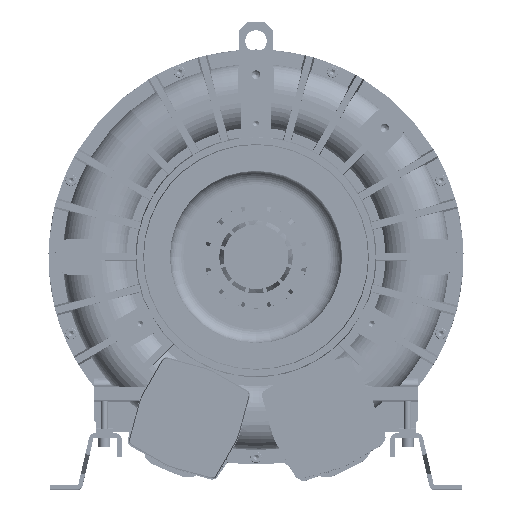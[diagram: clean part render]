
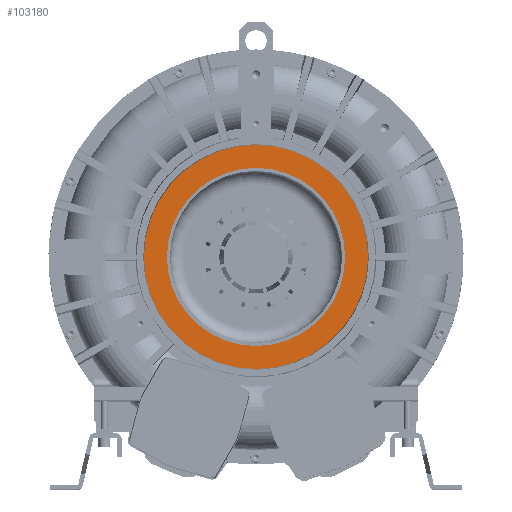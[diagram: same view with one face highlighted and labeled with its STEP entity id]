
A CAD part, top view. The second image highlights one B-rep face of the part: STEP entity #103180.
In plain terms, the highlighted planar face has unit normal (0, 0, 1).
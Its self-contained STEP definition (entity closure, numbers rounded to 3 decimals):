
#2317 = DIRECTION ( 'NONE',  ( -1., 0., 0. ) ) ;
#9303 = CARTESIAN_POINT ( 'NONE',  ( -130.194, 0., 212.5 ) ) ;
#11301 = AXIS2_PLACEMENT_3D ( 'NONE', #99756, #214632, #2317 ) ;
#11721 = CIRCLE ( 'NONE', #27667, 103.5 ) ;
#13000 = CARTESIAN_POINT ( 'NONE',  ( 103.5, 0., 212.5 ) ) ;
#16563 = DIRECTION ( 'NONE',  ( 1., 0., 0. ) ) ;
#27667 = AXIS2_PLACEMENT_3D ( 'NONE', #133976, #191444, #16563 ) ;
#36351 = VERTEX_POINT ( 'NONE', #13000 ) ;
#59135 = CIRCLE ( 'NONE', #11301, 130.194 ) ;
#75275 = DIRECTION ( 'NONE',  ( 0., 0., -1. ) ) ;
#90337 = CARTESIAN_POINT ( 'NONE',  ( 0., 0., 212.5 ) ) ;
#93823 = EDGE_CURVE ( 'NONE', #219159, #219159, #59135, .T. ) ;
#98387 = ORIENTED_EDGE ( 'NONE', *, *, #99315, .F. ) ;
#99315 = EDGE_CURVE ( 'NONE', #36351, #36351, #11721, .T. ) ;
#99756 = CARTESIAN_POINT ( 'NONE',  ( 0., 0., 212.5 ) ) ;
#102904 = ORIENTED_EDGE ( 'NONE', *, *, #93823, .T. ) ;
#103180 = ADVANCED_FACE ( 'NONE', ( #129027, #111532 ), #245220, .F. ) ;
#111532 = FACE_OUTER_BOUND ( 'NONE', #180658, .T. ) ;
#129027 = FACE_BOUND ( 'NONE', #135458, .T. ) ;
#132741 = DIRECTION ( 'NONE',  ( -1., 0., 0. ) ) ;
#133976 = CARTESIAN_POINT ( 'NONE',  ( 0., 0., 212.5 ) ) ;
#135458 = EDGE_LOOP ( 'NONE', ( #98387 ) ) ;
#180658 = EDGE_LOOP ( 'NONE', ( #102904 ) ) ;
#191444 = DIRECTION ( 'NONE',  ( 0., 0., 1. ) ) ;
#214632 = DIRECTION ( 'NONE',  ( 0., 0., 1. ) ) ;
#219159 = VERTEX_POINT ( 'NONE', #9303 ) ;
#219670 = AXIS2_PLACEMENT_3D ( 'NONE', #90337, #75275, #132741 ) ;
#245220 = PLANE ( 'NONE',  #219670 ) ;
